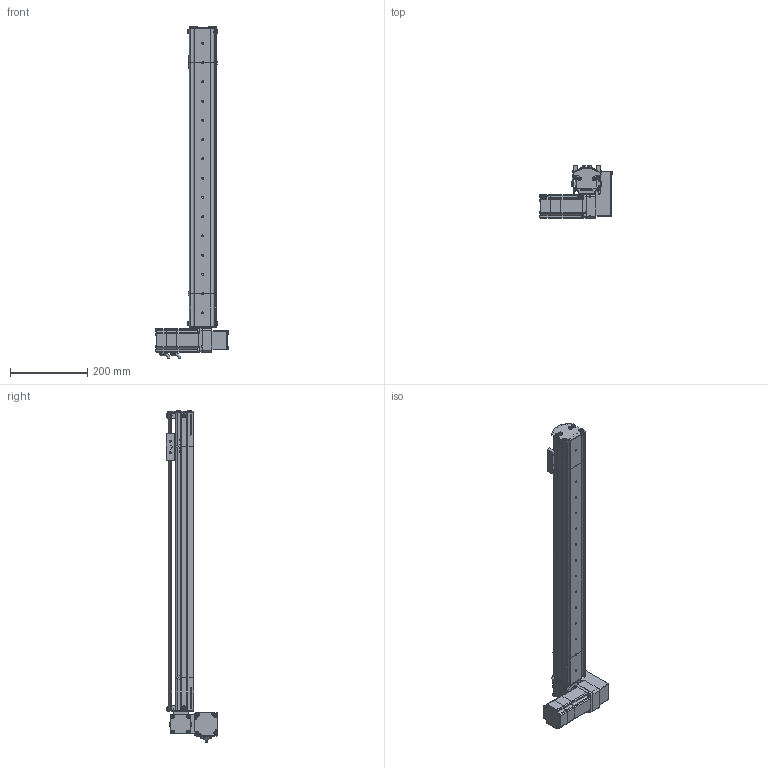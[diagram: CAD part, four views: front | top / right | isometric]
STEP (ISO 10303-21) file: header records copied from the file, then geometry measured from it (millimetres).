
FILE_DESCRIPTION (( 'STEP AP214' ), '1' );
FILE_NAME ('S07 TBN LU S600.STEP', '2010-06-29T11:33:17', ( 'Conseil Régional Haute-Normandie' ), ( 'Conseil Régional Haute-Normandie' ), 'SwSTEP 2.0', 'SolidWorks 2010', '' );
FILE_SCHEMA (( 'AUTOMOTIVE_DESIGN' ));
Length unit declared in the file: millimetre
Products named in the file (41): vis M5 L12_Default; vis M5 L5_Default; cache t皻e_Default; Poulie head_Default; cache t皻e axe_Default; couvercle moteur S07 TB; plaque de bout LU_Default; CHariot_Default; Poulie_Default; T皻e de poulie_Default; couvercle tail TB; plaque de bout_Default; corp tail TB_Default; VisM3_Default; Conecteur2 60BLDC_Default; Conecteur 60BLDC_Default; couroie tail_Default; S07 TB tail (78)_Default; Vis M5 L16-2_Default; Cvis M5 L30_Default; Axe 60BLDC_Default; P4_Default; P3 90A_Default; P2 90A_Default; P1_Default; Pièce5^S07 LU(146); renvoi LU_Default; Plaque racord_Default; Couroie t皻e_Default; GMB 60 90 310_Default; guide; vis M5 L16_Default; Chariot; Corp S07 course 600_Default; Course C L600_Default; S07 TBN LU S600; corp moteur TB(146)_Default; S07 LU(146)_Default; couvercle S07 course 600 ; Couroie  course 600_Default
Assembly tree (80 placements, depth 4):
  Pièce5^S07 LU(146)
  S07 TBN LU S600
    Course C L600_Default
      Corp S07 course 600_Default
      Couroie  course 600_Default
      couvercle S07 course 600 
    S07 TB tail (78)_Default
      vis M5 L12_Default  x10
      corp tail TB_Default
      plaque de bout_Default
      couvercle tail TB
      couroie tail_Default
      Poulie_Default
        Poulie_Default
        T皻e de poulie_Default
    CHariot_Default
      vis M5 L16_Default  x2
      guide
      Chariot
    S07 LU(146)_Default
      Vis M5 L16-2_Default  x8
      Poulie head_Default
      Couroie t皻e_Default
      vis M5 L5_Default  x6
      Plaque racord_Default
      vis M5 L12_Default  x6
      Cvis M5 L30_Default  x2
      renvoi LU_Default
      couvercle moteur S07 TB
      cache t皻e_Default  x2
      plaque de bout LU_Default
      GMB 60 90 310_Default
        P3 90A_Default
        Axe 60BLDC_Default
        VisM3_Default  x12
        P2 90A_Default
        P1_Default
        Conecteur2 60BLDC_Default
        P4_Default
        Conecteur 60BLDC_Default
      corp moteur TB(146)_Default
      cache t皻e axe_Default
Bounding box: 190.2 x 134.7 x 862 mm (x, y, z)
Volume: 2018712.1 mm3; surface area: 831689.6 mm2
Topology: 102 solids, 102 shells, 3910 faces, 9756 edges, 6301 vertices
Faces by surface type: plane 2226, cylinder 754, bspline 677, cone 125, torus 124, sphere 4
Entity records: 166977 total; most frequent: CARTESIAN_POINT 75161, ORIENTED_EDGE 15424, DIRECTION 12247, EDGE_CURVE 7712, VERTEX_POINT 5089, VECTOR 5041, LINE 5041, AXIS2_PLACEMENT_3D 3603
